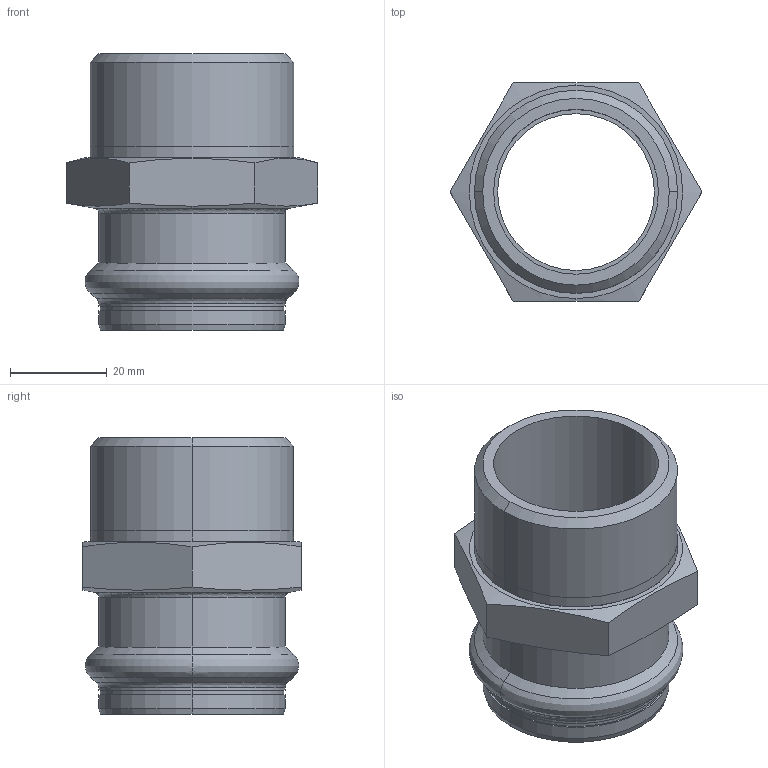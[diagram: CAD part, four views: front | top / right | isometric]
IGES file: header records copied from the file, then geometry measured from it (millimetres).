
Start section: Elysium IGES Interface
Global section: file name: C:\Users\Wallenburg\Desktop\3d modellen sudo\S-Pr VP\SP6243GV\6243GVW35114.igs; native system: CoCreate Modeling 17.00A  17-Jun-2010; preprocessor: CoCreate IGES_3D V2.2; author: Unknown; organization: Unknown; date: 20130124.141437; units: millimetre
Bounding box: 51.96 x 45 x 57 mm (x, y, z)
Volume: 25045.5 mm3; surface area: 15699.6 mm2
Topology: 1 solids, 1 shells, 57 faces, 131 edges, 78 vertices
Faces by surface type: bspline 57
